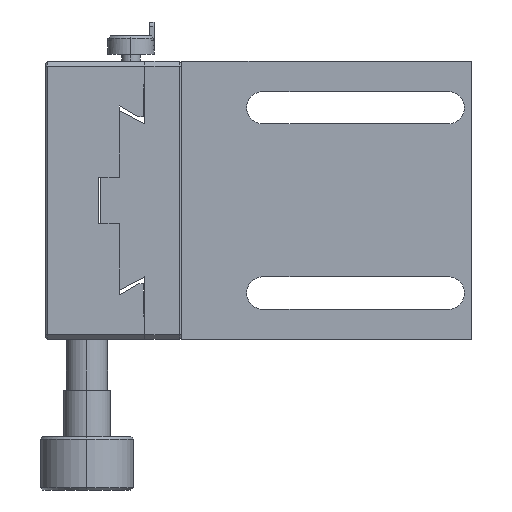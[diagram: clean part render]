
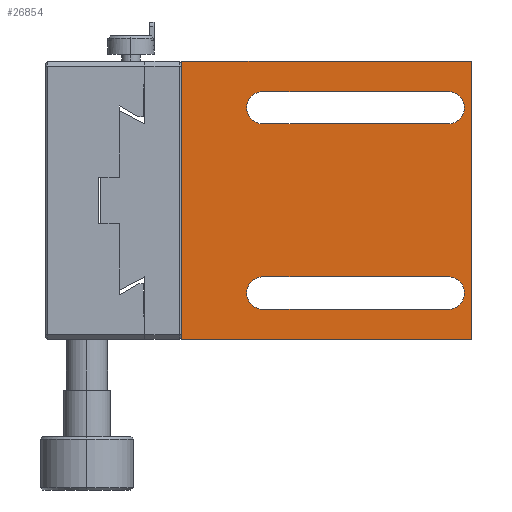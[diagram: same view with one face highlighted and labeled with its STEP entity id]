
A CAD part, left-side view. The second image highlights one B-rep face of the part: STEP entity #26854.
In plain terms, the highlighted planar face has unit normal (-1, 0, 0) as drawn and (0, -1, 0) by its records, which use the part's own axes.
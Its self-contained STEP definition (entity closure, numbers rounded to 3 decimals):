
#193 = EDGE_CURVE ( 'NONE', #13597, #12957, #1540, .T. ) ;
#289 = CARTESIAN_POINT ( 'NONE',  ( -62.5, 0., -30. ) ) ;
#460 = ORIENTED_EDGE ( 'NONE', *, *, #1045, .T. ) ;
#715 = DIRECTION ( 'NONE',  ( -1., 0., 0. ) ) ;
#1045 = EDGE_CURVE ( 'NONE', #12957, #27501, #3896, .T. ) ;
#1173 = CIRCLE ( 'NONE', #33282, 3.5 ) ;
#1540 = LINE ( 'NONE', #29431, #15176 ) ;
#1635 = CARTESIAN_POINT ( 'NONE',  ( -57.5, 0., 20. ) ) ;
#1843 = CARTESIAN_POINT ( 'NONE',  ( -62.5, 0., 23.5 ) ) ;
#2651 = DIRECTION ( 'NONE',  ( 1., 0., 0. ) ) ;
#3064 = DIRECTION ( 'NONE',  ( 0., 1., 0. ) ) ;
#3628 = CARTESIAN_POINT ( 'NONE',  ( -62.5, 0., -30. ) ) ;
#3846 = CARTESIAN_POINT ( 'NONE',  ( -62.5, 0., 30. ) ) ;
#3896 = CIRCLE ( 'NONE', #19764, 3.5 ) ;
#4293 = EDGE_CURVE ( 'NONE', #4874, #20677, #15580, .T. ) ;
#4695 = CARTESIAN_POINT ( 'NONE',  ( -57.5, 0., 20. ) ) ;
#4697 = VECTOR ( 'NONE', #19536, 1000. ) ;
#4874 = VERTEX_POINT ( 'NONE', #33747 ) ;
#5157 = VERTEX_POINT ( 'NONE', #30818 ) ;
#6079 = VECTOR ( 'NONE', #25378, 1000. ) ;
#6283 = ORIENTED_EDGE ( 'NONE', *, *, #23830, .T. ) ;
#6747 = DIRECTION ( 'NONE',  ( 0., 1., 0. ) ) ;
#8363 = DIRECTION ( 'NONE',  ( -1., 0., 0. ) ) ;
#8596 = CARTESIAN_POINT ( 'NONE',  ( -17.5, 0., 20. ) ) ;
#9119 = CARTESIAN_POINT ( 'NONE',  ( -62.5, 0., 30. ) ) ;
#10369 = ORIENTED_EDGE ( 'NONE', *, *, #193, .T. ) ;
#10842 = CIRCLE ( 'NONE', #18585, 3.5 ) ;
#10933 = VECTOR ( 'NONE', #23362, 1000. ) ;
#11435 = ORIENTED_EDGE ( 'NONE', *, *, #27049, .T. ) ;
#11512 = LINE ( 'NONE', #3628, #23862 ) ;
#11693 = ORIENTED_EDGE ( 'NONE', *, *, #4293, .T. ) ;
#11889 = FACE_BOUND ( 'NONE', #15911, .T. ) ;
#12021 = VERTEX_POINT ( 'NONE', #14214 ) ;
#12191 = VERTEX_POINT ( 'NONE', #33563 ) ;
#12515 = AXIS2_PLACEMENT_3D ( 'NONE', #19049, #13549, #8363 ) ;
#12673 = EDGE_CURVE ( 'NONE', #24374, #20377, #1173, .T. ) ;
#12746 = CARTESIAN_POINT ( 'NONE',  ( -61., 0., 20. ) ) ;
#12957 = VERTEX_POINT ( 'NONE', #23517 ) ;
#13021 = DIRECTION ( 'NONE',  ( -1., 0., 0. ) ) ;
#13549 = DIRECTION ( 'NONE',  ( 0., 1., 0. ) ) ;
#13597 = VERTEX_POINT ( 'NONE', #23629 ) ;
#14214 = CARTESIAN_POINT ( 'NONE',  ( -61., 0., -20. ) ) ;
#15176 = VECTOR ( 'NONE', #2651, 1000. ) ;
#15288 = CARTESIAN_POINT ( 'NONE',  ( 0., 0., -30. ) ) ;
#15580 = LINE ( 'NONE', #1843, #6079 ) ;
#15603 = EDGE_CURVE ( 'NONE', #5157, #12021, #10842, .T. ) ;
#15911 = EDGE_LOOP ( 'NONE', ( #33642, #17175, #22004, #11693, #6283 ) ) ;
#16223 = DIRECTION ( 'NONE',  ( 0., -1., 0. ) ) ;
#16379 = LINE ( 'NONE', #27868, #16799 ) ;
#16619 = EDGE_LOOP ( 'NONE', ( #28422, #25234, #18702, #16973 ) ) ;
#16799 = VECTOR ( 'NONE', #22887, 1000. ) ;
#16814 = VERTEX_POINT ( 'NONE', #9119 ) ;
#16973 = ORIENTED_EDGE ( 'NONE', *, *, #20216, .T. ) ;
#17175 = ORIENTED_EDGE ( 'NONE', *, *, #12673, .T. ) ;
#17627 = AXIS2_PLACEMENT_3D ( 'NONE', #289, #16223, #18746 ) ;
#18079 = EDGE_CURVE ( 'NONE', #12021, #13597, #27598, .T. ) ;
#18080 = CARTESIAN_POINT ( 'NONE',  ( 0., 0., -30. ) ) ;
#18506 = CARTESIAN_POINT ( 'NONE',  ( 0., 0., -30. ) ) ;
#18585 = AXIS2_PLACEMENT_3D ( 'NONE', #24739, #22089, #19309 ) ;
#18702 = ORIENTED_EDGE ( 'NONE', *, *, #23633, .F. ) ;
#18746 = DIRECTION ( 'NONE',  ( 0., 0., -1. ) ) ;
#18870 = FACE_OUTER_BOUND ( 'NONE', #16619, .T. ) ;
#19049 = CARTESIAN_POINT ( 'NONE',  ( -57.5, 0., -20. ) ) ;
#19309 = DIRECTION ( 'NONE',  ( -1., 0., 0. ) ) ;
#19536 = DIRECTION ( 'NONE',  ( -1., 0., 0. ) ) ;
#19569 = LINE ( 'NONE', #15288, #10933 ) ;
#19764 = AXIS2_PLACEMENT_3D ( 'NONE', #30714, #30584, #20180 ) ;
#19919 = LINE ( 'NONE', #22851, #24045 ) ;
#20002 = CIRCLE ( 'NONE', #21141, 3.5 ) ;
#20180 = DIRECTION ( 'NONE',  ( -1., 0., 0. ) ) ;
#20216 = EDGE_CURVE ( 'NONE', #12191, #16814, #22433, .T. ) ;
#20377 = VERTEX_POINT ( 'NONE', #12746 ) ;
#20420 = DIRECTION ( 'NONE',  ( 1., 0., 0. ) ) ;
#20677 = VERTEX_POINT ( 'NONE', #24573 ) ;
#20700 = VECTOR ( 'NONE', #20420, 1000. ) ;
#21141 = AXIS2_PLACEMENT_3D ( 'NONE', #8596, #3064, #715 ) ;
#21350 = VERTEX_POINT ( 'NONE', #18506 ) ;
#21595 = EDGE_CURVE ( 'NONE', #16814, #21744, #11512, .T. ) ;
#21744 = VERTEX_POINT ( 'NONE', #25075 ) ;
#21758 = PLANE ( 'NONE',  #17627 ) ;
#22004 = ORIENTED_EDGE ( 'NONE', *, *, #24075, .T. ) ;
#22089 = DIRECTION ( 'NONE',  ( 0., 1., 0. ) ) ;
#22377 = CARTESIAN_POINT ( 'NONE',  ( -57.5, 0., 16.5 ) ) ;
#22433 = LINE ( 'NONE', #3846, #4697 ) ;
#22744 = CARTESIAN_POINT ( 'NONE',  ( -17.5, 0., 16.5 ) ) ;
#22851 = CARTESIAN_POINT ( 'NONE',  ( -62.5, 0., 16.5 ) ) ;
#22887 = DIRECTION ( 'NONE',  ( -1., 0., 0. ) ) ;
#22989 = DIRECTION ( 'NONE',  ( -1., 0., 0. ) ) ;
#23362 = DIRECTION ( 'NONE',  ( 0., 0., -1. ) ) ;
#23517 = CARTESIAN_POINT ( 'NONE',  ( -17.5, 0., -16.5 ) ) ;
#23629 = CARTESIAN_POINT ( 'NONE',  ( -57.5, 0., -16.5 ) ) ;
#23633 = EDGE_CURVE ( 'NONE', #12191, #21350, #19569, .T. ) ;
#23830 = EDGE_CURVE ( 'NONE', #20677, #30357, #20002, .T. ) ;
#23862 = VECTOR ( 'NONE', #24726, 1000. ) ;
#23992 = AXIS2_PLACEMENT_3D ( 'NONE', #1635, #6747, #22989 ) ;
#24045 = VECTOR ( 'NONE', #25165, 1000. ) ;
#24075 = EDGE_CURVE ( 'NONE', #20377, #4874, #27832, .T. ) ;
#24237 = FACE_BOUND ( 'NONE', #25308, .T. ) ;
#24374 = VERTEX_POINT ( 'NONE', #22377 ) ;
#24573 = CARTESIAN_POINT ( 'NONE',  ( -17.5, 0., 23.5 ) ) ;
#24726 = DIRECTION ( 'NONE',  ( 0., 0., -1. ) ) ;
#24739 = CARTESIAN_POINT ( 'NONE',  ( -57.5, 0., -20. ) ) ;
#25075 = CARTESIAN_POINT ( 'NONE',  ( -62.5, 0., -30. ) ) ;
#25165 = DIRECTION ( 'NONE',  ( -1., 0., 0. ) ) ;
#25234 = ORIENTED_EDGE ( 'NONE', *, *, #29250, .T. ) ;
#25308 = EDGE_LOOP ( 'NONE', ( #11435, #32822, #25825, #10369, #460 ) ) ;
#25378 = DIRECTION ( 'NONE',  ( 1., 0., 0. ) ) ;
#25803 = DIRECTION ( 'NONE',  ( 0., 1., 0. ) ) ;
#25825 = ORIENTED_EDGE ( 'NONE', *, *, #18079, .T. ) ;
#26854 = ADVANCED_FACE ( 'NONE', ( #18870, #11889, #24237 ), #21758, .T. ) ;
#27049 = EDGE_CURVE ( 'NONE', #27501, #5157, #16379, .T. ) ;
#27501 = VERTEX_POINT ( 'NONE', #32646 ) ;
#27598 = CIRCLE ( 'NONE', #12515, 3.5 ) ;
#27699 = LINE ( 'NONE', #18080, #20700 ) ;
#27832 = CIRCLE ( 'NONE', #23992, 3.5 ) ;
#27868 = CARTESIAN_POINT ( 'NONE',  ( -62.5, 0., -23.5 ) ) ;
#28422 = ORIENTED_EDGE ( 'NONE', *, *, #21595, .T. ) ;
#28757 = EDGE_CURVE ( 'NONE', #30357, #24374, #19919, .T. ) ;
#29250 = EDGE_CURVE ( 'NONE', #21744, #21350, #27699, .T. ) ;
#29431 = CARTESIAN_POINT ( 'NONE',  ( -62.5, 0., -16.5 ) ) ;
#30357 = VERTEX_POINT ( 'NONE', #22744 ) ;
#30584 = DIRECTION ( 'NONE',  ( 0., 1., 0. ) ) ;
#30714 = CARTESIAN_POINT ( 'NONE',  ( -17.5, 0., -20. ) ) ;
#30818 = CARTESIAN_POINT ( 'NONE',  ( -57.5, 0., -23.5 ) ) ;
#32646 = CARTESIAN_POINT ( 'NONE',  ( -17.5, 0., -23.5 ) ) ;
#32822 = ORIENTED_EDGE ( 'NONE', *, *, #15603, .T. ) ;
#33282 = AXIS2_PLACEMENT_3D ( 'NONE', #4695, #25803, #13021 ) ;
#33563 = CARTESIAN_POINT ( 'NONE',  ( 0., 0., 30. ) ) ;
#33642 = ORIENTED_EDGE ( 'NONE', *, *, #28757, .T. ) ;
#33747 = CARTESIAN_POINT ( 'NONE',  ( -57.5, 0., 23.5 ) ) ;
